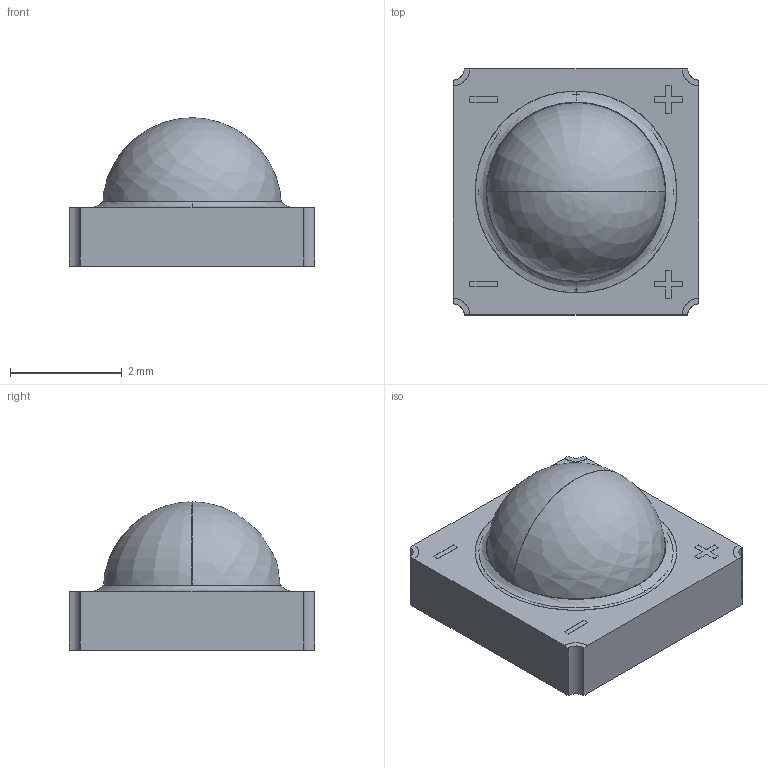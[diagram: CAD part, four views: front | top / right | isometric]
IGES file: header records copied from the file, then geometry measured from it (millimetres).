
Start section: SolidWorks IGES file using analytic representation for surfaces
Global section: file name: C:\P-Gold\Projects\Emitter_Packages\LZ1-05(5W)_04-4x4-4\ceramic_4-4x4-4\release_LZ1-00XX05_RevA2_07-03-13\LZ1-00XX05-P3_LZ1_RevA2.IGS; native system: SolidWorks 2012; preprocessor: SolidWorks 2012; author: dadebiyi; date: 130703.154652; units: millimetre
Bounding box: 4.4 x 4.4 x 2.65 mm (x, y, z)
Surface area: 111.7 mm2 (no closed solid volume)
Topology: 0 solids, 0 shells, 141 faces, 1144 edges, 1143 vertices
Faces by surface type: bspline 120, revolution 21
